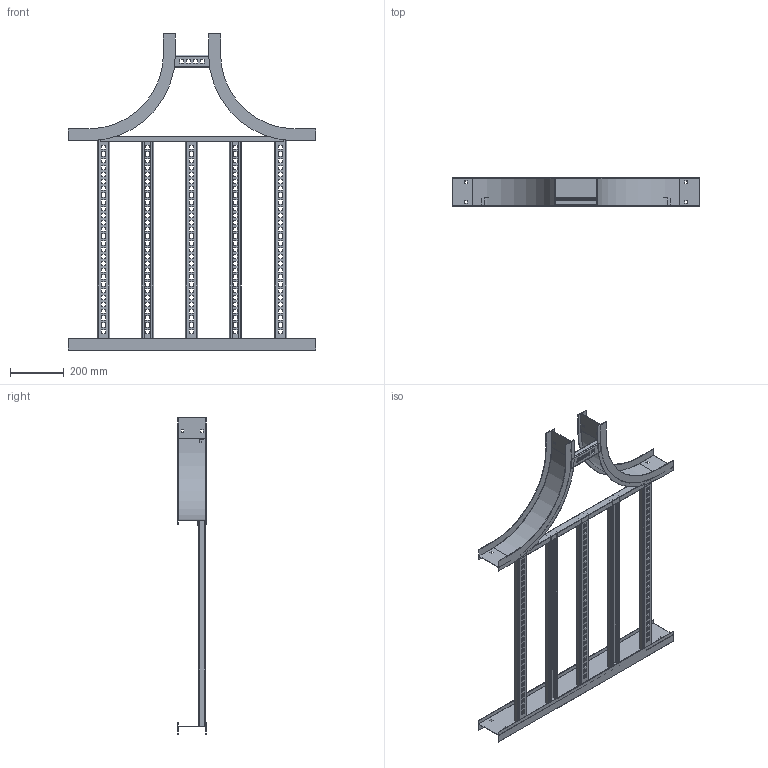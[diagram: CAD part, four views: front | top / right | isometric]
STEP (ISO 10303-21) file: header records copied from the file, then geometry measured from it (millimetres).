
FILE_DESCRIPTION((''),'2;1');
FILE_NAME('AHF43006LRT12_ASM','2010-02-04T',('erouzier'),(''),'PRO/ENGINEER BY PARAMETRIC TECHNOLOGY CORPORATION, 2008510','PRO/ENGINEER BY PARAMETRIC TECHNOLOGY CORPORATION, 2008510','');
FILE_SCHEMA(('CONFIG_CONTROL_DESIGN'));
Length unit declared in the file: inch
Products named in the file (10): CDS001810-4-90-12-I; CDS013845-4-36; CDS000495_GEN_AF7; CDS002159L30-P_AF8; CDS002159L30-P_AF9; CDS002159L30-P_AF10; CDS002159L30-P_AF11; CDS002159L30-P_AF12; CDS002159L6-P_AF1; AHF43006LRT12_ASM
Assembly tree (10 placements, depth 2):
  AHF43006LRT12_ASM
    CDS001810-4-90-12-I  x2
    CDS013845-4-36
    CDS000495_GEN_AF7
    CDS002159L30-P_AF8
    CDS002159L30-P_AF9
    CDS002159L30-P_AF10
    CDS002159L30-P_AF11
    CDS002159L30-P_AF12
    CDS002159L6-P_AF1
Bounding box: 918.21 x 106.43 x 1175 mm (x, y, z)
Volume: 1436366.4 mm3; surface area: 1809549.2 mm2
Topology: 10 solids, 10 shells, 1456 faces, 4308 edges, 2872 vertices
Faces by surface type: plane 802, cylinder 654
Entity records: 48415 total; most frequent: CARTESIAN_POINT 8414, ORIENTED_EDGE 8376, DIRECTION 8352, EDGE_CURVE 4188, VECTOR 2892, LINE 2892, VERTEX_POINT 2792, AXIS2_PLACEMENT_3D 2730
